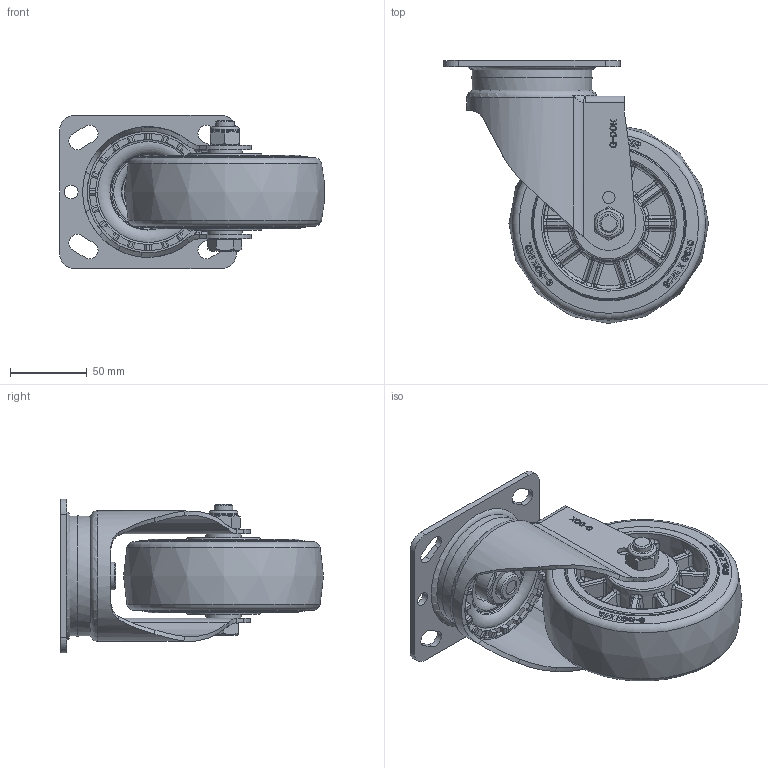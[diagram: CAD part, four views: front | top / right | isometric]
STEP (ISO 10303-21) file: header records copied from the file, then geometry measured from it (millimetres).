
FILE_DESCRIPTION(/* description */ (''),/* implementation_level */ '2;1');
FILE_NAME(/* name */ 'C:\Users\admin\Desktop\업무폴더\일자별 업무\2026\05월\05.15\변환\SPH-130-ASF-TUD&HRD.ipt.stp',/* time_stamp */ '2026-05-15T16:33:18+09:00',/* author */ ('admin'),/* organization */ ('지덕산업'),/* preprocessor_version */ 'ST-DEVELOPER v18.1',/* originating_system */ 'Autodesk Inventor 2021',/* authorisation */ '');
FILE_SCHEMA (('AUTOMOTIVE_DESIGN { 1 0 10303 214 3 1 1 }'));
Products named in the file (1): SPH-130-ASF-TUD&HRD
Bounding box: 172.26 x 171 x 100 mm (x, y, z)
Volume: 696035.5 mm3; surface area: 126688.6 mm2
Topology: 1 solids, 1 shells, 1703 faces, 4319 edges, 2716 vertices
Faces by surface type: plane 660, bspline 601, cylinder 220, sphere 80, cone 76, torus 66
Full cylindrical faces by diameter (mm): 8 x2, 9 x2, 10 x1, 12 x1, 18 x2, 18.5 x1, 31 x1, 31.177 x1
Entity records: 60868 total; most frequent: CARTESIAN_POINT 24861, ORIENTED_EDGE 8634, DIRECTION 5655, EDGE_CURVE 4317, VERTEX_POINT 2716, AXIS2_PLACEMENT_3D 1945, EDGE_LOOP 1821, LINE 1765
